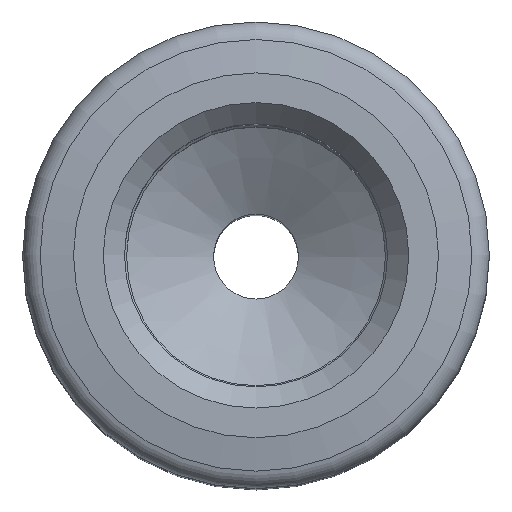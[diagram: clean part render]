
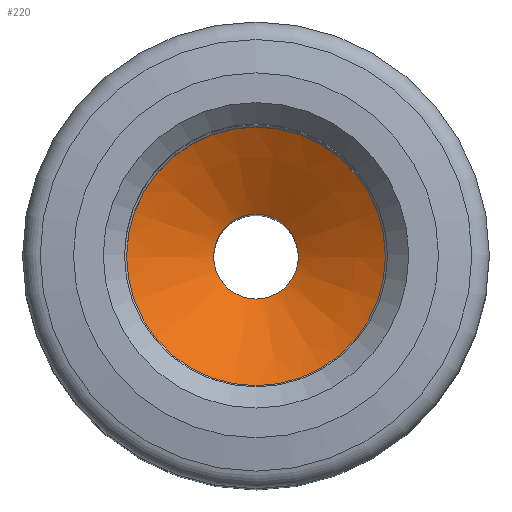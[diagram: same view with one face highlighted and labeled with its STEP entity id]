
A CAD part, top view. The second image highlights one B-rep face of the part: STEP entity #220.
In plain terms, the highlighted conical face has half-angle 60 degrees and reference radius 3.05 mm.
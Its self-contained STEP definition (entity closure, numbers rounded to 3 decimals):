
#220=ADVANCED_FACE('', (#230,#240), #250, .F.);
#1680=AXIS2_PLACEMENT_3D('Ax2Pl3d', #1690, #1700, #1710);
#1760=AXIS2_PLACEMENT_3D('Ax2Pl3d', #1770, #1780, #1790);
#1800=AXIS2_PLACEMENT_3D('Ax2Pl3d', #1810, #1820, #1830);
#1690=CARTESIAN_POINT('HicPkt', (7.326,6.049,
18.203));
#4170=CARTESIAN_POINT('', (7.326,7.049,18.203));
#1770=CARTESIAN_POINT('HicPkt', (7.326,6.049,
19.386));
#1810=CARTESIAN_POINT('HicPkt', (7.326,6.049,
19.386));
#4190=CARTESIAN_POINT('', (10.376,6.049,19.386));
#4490=CIRCLE('Circle', #1680, 1.);
#4510=CIRCLE('Circle', #1800, 3.05);
#250=CONICAL_SURFACE('Kegel', #1760, 3.05, 1.047)
;
#1700=DIRECTION('Axis', (0.,0.,-1.));
#1710=DIRECTION('RefDirection', (-1.,-0.,0.));
#1780=DIRECTION('Axis', (0.,0.,1.));
#1790=DIRECTION('RefDirection', (1.,0.,-0.));
#1820=DIRECTION('Axis', (0.,0.,1.));
#1830=DIRECTION('RefDirection', (1.,0.,-0.));
#5900=EDGE_CURVE('', #5910, #5910, #4490, .T.);
#5940=EDGE_CURVE('', #5950, #5950, #4510, .T.);
#6600=EDGE_LOOP('Edge_loop', (#6610));
#6620=EDGE_LOOP('Edge_loop', (#6630));
#240=FACE_BOUND('', #6620, .T.);
#230=FACE_OUTER_BOUND('Face_outer_bound', #6600, .T.);
#6610=ORIENTED_EDGE('', *, *, #5900, .T.);
#6630=ORIENTED_EDGE('', *, *, #5940, .T.);
#5910=VERTEX_POINT('', #4170);
#5950=VERTEX_POINT('', #4190);
